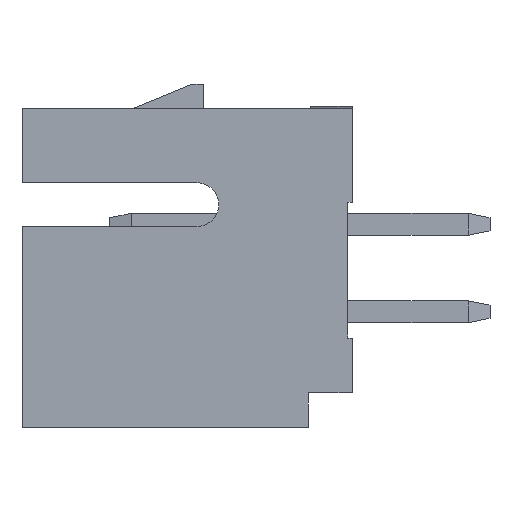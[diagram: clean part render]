
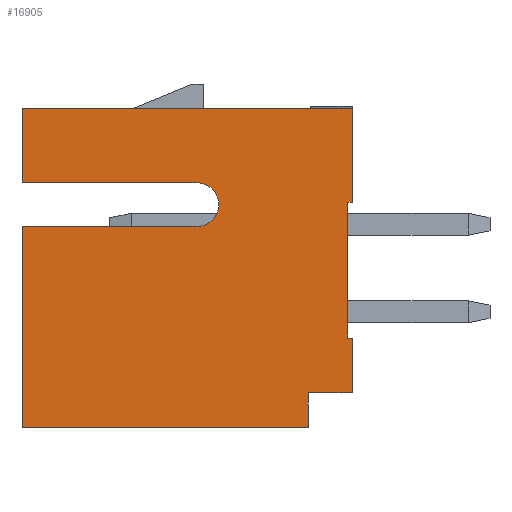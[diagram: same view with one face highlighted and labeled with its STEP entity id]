
A CAD part, left-side view. The second image highlights one B-rep face of the part: STEP entity #16905.
In plain terms, the highlighted planar face has unit normal (-1, 0, 0).
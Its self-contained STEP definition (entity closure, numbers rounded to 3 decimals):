
#30 = DIRECTION ( 'NONE',  ( -1., 0., 0. ) ) ;
#83 = VERTEX_POINT ( 'NONE', #4709 ) ;
#128 = CARTESIAN_POINT ( 'NONE',  ( -5., 0., -2.15 ) ) ;
#540 = LINE ( 'NONE', #10009, #6130 ) ;
#926 = EDGE_CURVE ( 'NONE', #3418, #3416, #12278, .T. ) ;
#950 = LINE ( 'NONE', #7531, #4232 ) ;
#1080 = EDGE_CURVE ( 'NONE', #13574, #3418, #6184, .T. ) ;
#1309 = CARTESIAN_POINT ( 'NONE',  ( -5., 3.55, -2.2 ) ) ;
#1403 = AXIS2_PLACEMENT_3D ( 'NONE', #1309, #6531, #10467 ) ;
#1444 = DIRECTION ( 'NONE',  ( 0., -1., 0. ) ) ;
#1618 = VECTOR ( 'NONE', #2553, 1000. ) ;
#1654 = EDGE_CURVE ( 'NONE', #9023, #11077, #1887, .T. ) ;
#1779 = ORIENTED_EDGE ( 'NONE', *, *, #1080, .T. ) ;
#1887 = LINE ( 'NONE', #9752, #2941 ) ;
#2553 = DIRECTION ( 'NONE',  ( 0., 0., 1. ) ) ;
#2634 = EDGE_LOOP ( 'NONE', ( #15877, #10421, #1779, #7586, #9380, #12234, #4425, #9222, #5617, #14776, #15626, #6582, #10723, #10488 ) ) ;
#2723 = CARTESIAN_POINT ( 'NONE',  ( -5., 7.55, -1.7 ) ) ;
#2941 = VECTOR ( 'NONE', #15118, 1000. ) ;
#2968 = VECTOR ( 'NONE', #8675, 1000. ) ;
#3416 = VERTEX_POINT ( 'NONE', #13834 ) ;
#3418 = VERTEX_POINT ( 'NONE', #7346 ) ;
#3503 = CARTESIAN_POINT ( 'NONE',  ( -5., 7.55, -7.3 ) ) ;
#3575 = EDGE_CURVE ( 'NONE', #5114, #83, #14681, .T. ) ;
#3686 = CARTESIAN_POINT ( 'NONE',  ( -5., 0.1, -5.25 ) ) ;
#3737 = CARTESIAN_POINT ( 'NONE',  ( -5., 1., -7.3 ) ) ;
#4232 = VECTOR ( 'NONE', #11558, 1000. ) ;
#4373 = VECTOR ( 'NONE', #8872, 1000. ) ;
#4425 = ORIENTED_EDGE ( 'NONE', *, *, #16538, .T. ) ;
#4429 = DIRECTION ( 'NONE',  ( 0., 1., 0. ) ) ;
#4471 = EDGE_CURVE ( 'NONE', #14713, #9023, #10693, .T. ) ;
#4624 = DIRECTION ( 'NONE',  ( 0., 0., 1. ) ) ;
#4709 = CARTESIAN_POINT ( 'NONE',  ( -5., 7.55, -7.3 ) ) ;
#4729 = DIRECTION ( 'NONE',  ( 0., 1., 0. ) ) ;
#4960 = CARTESIAN_POINT ( 'NONE',  ( -5., 0., -7.3 ) ) ;
#4984 = CARTESIAN_POINT ( 'NONE',  ( -5., 0.1, -5.25 ) ) ;
#5114 = VERTEX_POINT ( 'NONE', #5756 ) ;
#5145 = VECTOR ( 'NONE', #9186, 1000. ) ;
#5496 = VECTOR ( 'NONE', #1444, 1000. ) ;
#5508 = AXIS2_PLACEMENT_3D ( 'NONE', #4960, #30, #13097 ) ;
#5617 = ORIENTED_EDGE ( 'NONE', *, *, #6803, .F. ) ;
#5756 = CARTESIAN_POINT ( 'NONE',  ( -5., 1., -7.3 ) ) ;
#6060 = EDGE_CURVE ( 'NONE', #14713, #13505, #950, .T. ) ;
#6130 = VECTOR ( 'NONE', #4624, 1000. ) ;
#6157 = VECTOR ( 'NONE', #15860, 1000. ) ;
#6184 = LINE ( 'NONE', #11407, #16030 ) ;
#6421 = PLANE ( 'NONE',  #5508 ) ;
#6531 = DIRECTION ( 'NONE',  ( 1., 0., 0. ) ) ;
#6573 = LINE ( 'NONE', #3737, #4373 ) ;
#6581 = LINE ( 'NONE', #2723, #5496 ) ;
#6582 = ORIENTED_EDGE ( 'NONE', *, *, #6060, .F. ) ;
#6775 = EDGE_CURVE ( 'NONE', #7467, #3416, #540, .T. ) ;
#6803 = EDGE_CURVE ( 'NONE', #83, #12847, #8641, .T. ) ;
#7030 = VERTEX_POINT ( 'NONE', #14615 ) ;
#7063 = VECTOR ( 'NONE', #4429, 1000. ) ;
#7346 = CARTESIAN_POINT ( 'NONE',  ( -5., 0., 0. ) ) ;
#7467 = VERTEX_POINT ( 'NONE', #14518 ) ;
#7531 = CARTESIAN_POINT ( 'NONE',  ( -5., 0., -6.5 ) ) ;
#7586 = ORIENTED_EDGE ( 'NONE', *, *, #926, .T. ) ;
#7745 = CARTESIAN_POINT ( 'NONE',  ( -5., 7.55, -2.7 ) ) ;
#7811 = EDGE_CURVE ( 'NONE', #12847, #7030, #10402, .T. ) ;
#8564 = DIRECTION ( 'NONE',  ( 0., 0., 1. ) ) ;
#8641 = LINE ( 'NONE', #3503, #11885 ) ;
#8675 = DIRECTION ( 'NONE',  ( 0., 0., 1. ) ) ;
#8872 = DIRECTION ( 'NONE',  ( 0., 0., 1. ) ) ;
#9023 = VERTEX_POINT ( 'NONE', #10968 ) ;
#9085 = FACE_OUTER_BOUND ( 'NONE', #2634, .T. ) ;
#9151 = CARTESIAN_POINT ( 'NONE',  ( -5., 1., -6.5 ) ) ;
#9186 = DIRECTION ( 'NONE',  ( 0., 1., 0. ) ) ;
#9192 = CARTESIAN_POINT ( 'NONE',  ( -5., 7.55, -2.7 ) ) ;
#9222 = ORIENTED_EDGE ( 'NONE', *, *, #7811, .F. ) ;
#9380 = ORIENTED_EDGE ( 'NONE', *, *, #6775, .F. ) ;
#9731 = EDGE_CURVE ( 'NONE', #13574, #15901, #14302, .T. ) ;
#9752 = CARTESIAN_POINT ( 'NONE',  ( -5., 0., -5.25 ) ) ;
#9755 = VECTOR ( 'NONE', #4729, 1000. ) ;
#10009 = CARTESIAN_POINT ( 'NONE',  ( -5., 7.55, -1.7 ) ) ;
#10336 = CARTESIAN_POINT ( 'NONE',  ( -5., 0.1, -2.15 ) ) ;
#10402 = LINE ( 'NONE', #7745, #6157 ) ;
#10410 = VERTEX_POINT ( 'NONE', #15613 ) ;
#10421 = ORIENTED_EDGE ( 'NONE', *, *, #9731, .F. ) ;
#10467 = DIRECTION ( 'NONE',  ( 0., 0., 1. ) ) ;
#10488 = ORIENTED_EDGE ( 'NONE', *, *, #1654, .T. ) ;
#10693 = LINE ( 'NONE', #15553, #1618 ) ;
#10723 = ORIENTED_EDGE ( 'NONE', *, *, #4471, .T. ) ;
#10933 = CARTESIAN_POINT ( 'NONE',  ( -5., 1., -7.3 ) ) ;
#10968 = CARTESIAN_POINT ( 'NONE',  ( -5., 0., -5.25 ) ) ;
#11077 = VERTEX_POINT ( 'NONE', #3686 ) ;
#11407 = CARTESIAN_POINT ( 'NONE',  ( -5., 0., -2.15 ) ) ;
#11532 = CARTESIAN_POINT ( 'NONE',  ( -5., 0., -6.5 ) ) ;
#11558 = DIRECTION ( 'NONE',  ( 0., 1., 0. ) ) ;
#11885 = VECTOR ( 'NONE', #8564, 1000. ) ;
#12234 = ORIENTED_EDGE ( 'NONE', *, *, #15958, .T. ) ;
#12278 = LINE ( 'NONE', #16445, #9755 ) ;
#12692 = EDGE_CURVE ( 'NONE', #11077, #15901, #14046, .T. ) ;
#12847 = VERTEX_POINT ( 'NONE', #9192 ) ;
#13097 = DIRECTION ( 'NONE',  ( 0., 0., 1. ) ) ;
#13245 = CARTESIAN_POINT ( 'NONE',  ( -5., 0., -2.15 ) ) ;
#13505 = VERTEX_POINT ( 'NONE', #9151 ) ;
#13574 = VERTEX_POINT ( 'NONE', #13245 ) ;
#13834 = CARTESIAN_POINT ( 'NONE',  ( -5., 7.55, 0. ) ) ;
#13942 = CIRCLE ( 'NONE', #1403, 0.5 ) ;
#14046 = LINE ( 'NONE', #4984, #2968 ) ;
#14302 = LINE ( 'NONE', #128, #5145 ) ;
#14518 = CARTESIAN_POINT ( 'NONE',  ( -5., 7.55, -1.7 ) ) ;
#14615 = CARTESIAN_POINT ( 'NONE',  ( -5., 3.55, -2.7 ) ) ;
#14681 = LINE ( 'NONE', #10933, #7063 ) ;
#14713 = VERTEX_POINT ( 'NONE', #11532 ) ;
#14746 = EDGE_CURVE ( 'NONE', #5114, #13505, #6573, .T. ) ;
#14776 = ORIENTED_EDGE ( 'NONE', *, *, #3575, .F. ) ;
#15118 = DIRECTION ( 'NONE',  ( 0., 1., 0. ) ) ;
#15553 = CARTESIAN_POINT ( 'NONE',  ( -5., 0., -6.5 ) ) ;
#15613 = CARTESIAN_POINT ( 'NONE',  ( -5., 3.55, -1.7 ) ) ;
#15626 = ORIENTED_EDGE ( 'NONE', *, *, #14746, .T. ) ;
#15860 = DIRECTION ( 'NONE',  ( 0., -1., 0. ) ) ;
#15877 = ORIENTED_EDGE ( 'NONE', *, *, #12692, .T. ) ;
#15901 = VERTEX_POINT ( 'NONE', #10336 ) ;
#15958 = EDGE_CURVE ( 'NONE', #7467, #10410, #6581, .T. ) ;
#16030 = VECTOR ( 'NONE', #16707, 1000. ) ;
#16445 = CARTESIAN_POINT ( 'NONE',  ( -5., 0., 0. ) ) ;
#16538 = EDGE_CURVE ( 'NONE', #10410, #7030, #13942, .T. ) ;
#16707 = DIRECTION ( 'NONE',  ( 0., 0., 1. ) ) ;
#16905 = ADVANCED_FACE ( 'NONE', ( #9085 ), #6421, .T. ) ;
